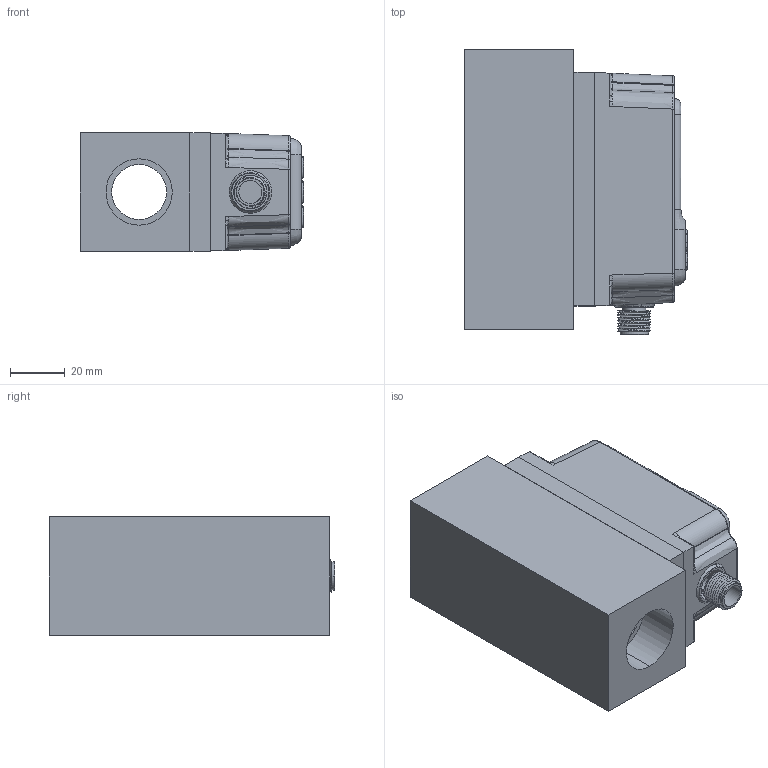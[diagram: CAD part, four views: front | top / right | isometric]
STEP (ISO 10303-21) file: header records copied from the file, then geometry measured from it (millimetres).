
FILE_DESCRIPTION (( 'STEP AP214' ), '1' );
FILE_NAME ('BFW2F20.STEP', '2026-01-27T01:27:31', ( '' ), ( '' ), 'SwSTEP 2.0', 'SolidWorks 2025', '' );
FILE_SCHEMA (( 'AUTOMOTIVE_DESIGN' ));
Length unit declared in the file: millimetre
Products named in the file (5): ____; ________________________20260104; DN20____; __________________; BFW2F20
Assembly tree (4 placements, depth 3):
  BFW2F20
    ________________________20260104
      __________________
      ____
    DN20____
Bounding box: 81.52 x 104.03 x 43 mm (x, y, z)
Volume: 166528.3 mm3; surface area: 55349.2 mm2
Topology: 2 solids, 12 shells, 468 faces, 1204 edges, 774 vertices
Faces by surface type: bspline 228, plane 134, cylinder 96, cone 8, torus 2
Entity records: 51009 total; most frequent: CARTESIAN_POINT 42064, ORIENTED_EDGE 2375, EDGE_CURVE 1192, B_SPLINE_CURVE_WITH_KNOTS 885, DIRECTION 841, VERTEX_POINT 774, EDGE_LOOP 500, ADVANCED_FACE 468
